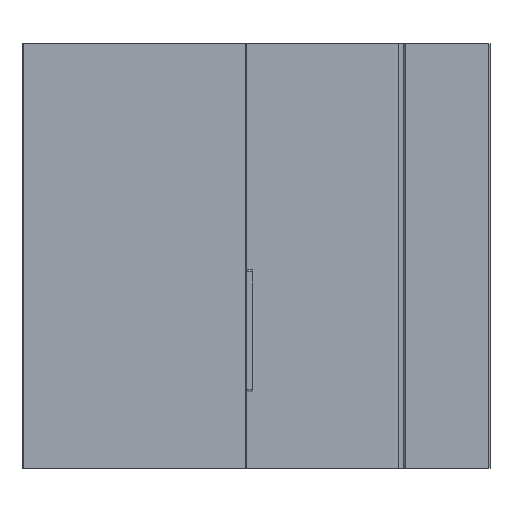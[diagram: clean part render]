
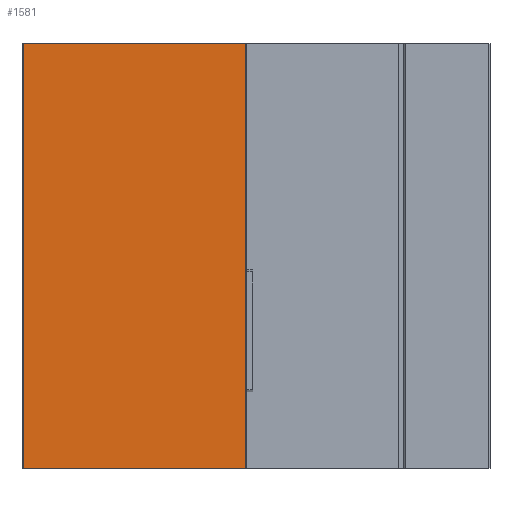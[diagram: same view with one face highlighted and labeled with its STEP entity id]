
A CAD part, front view. The second image highlights one B-rep face of the part: STEP entity #1581.
In plain terms, the highlighted planar face has unit normal (0, -1, 0).
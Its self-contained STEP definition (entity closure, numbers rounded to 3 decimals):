
#593 = VERTEX_POINT( '', #1743 );
#669 = EDGE_CURVE( '', #593, #831, #1827, .T. );
#831 = VERTEX_POINT( '', #2009 );
#887 = EDGE_CURVE( '', #831, #897, #2067, .T. );
#897 = VERTEX_POINT( '', #2078 );
#1211 = VERTEX_POINT( '', #2431 );
#1331 = EDGE_CURVE( '', #1211, #897, #2566, .T. );
#1581 = ADVANCED_FACE( '', ( #2845 ), #2846, .T. );
#1651 = EDGE_CURVE( '', #593, #1211, #2925, .T. );
#1743 = CARTESIAN_POINT( '', ( -24.2, -3., 0. ) );
#1827 = LINE( '', #3133, #3134 );
#2009 = CARTESIAN_POINT( '', ( -6.4, -3., 0. ) );
#2067 = LINE( '', #3449, #3450 );
#2078 = CARTESIAN_POINT( '', ( -6.4, -3., -34. ) );
#2431 = CARTESIAN_POINT( '', ( -24.2, -3., -34. ) );
#2566 = LINE( '', #4136, #4137 );
#2845 = FACE_OUTER_BOUND( '', #4532, .T. );
#2846 = PLANE( '', #4533 );
#2925 = LINE( '', #4644, #4645 );
#3133 = CARTESIAN_POINT( '', ( -24.2, -3., 0. ) );
#3134 = VECTOR( '', #4830, 1. );
#3449 = CARTESIAN_POINT( '', ( -6.4, -3., 0. ) );
#3450 = VECTOR( '', #5087, 1. );
#4136 = CARTESIAN_POINT( '', ( -24.2, -3., -34. ) );
#4137 = VECTOR( '', #5683, 1. );
#4532 = EDGE_LOOP( '', ( #5990, #5991, #5992, #5993 ) );
#4533 = AXIS2_PLACEMENT_3D( '', #5994, #5995, #5996 );
#4644 = CARTESIAN_POINT( '', ( -24.2, -3., 0. ) );
#4645 = VECTOR( '', #6089, 1. );
#4830 = DIRECTION( '', ( 1., 0., 0. ) );
#5087 = DIRECTION( '', ( 0., 0., -1. ) );
#5683 = DIRECTION( '', ( 1., 0., 0. ) );
#5990 = ORIENTED_EDGE( '', *, *, #1331, .T. );
#5991 = ORIENTED_EDGE( '', *, *, #887, .F. );
#5992 = ORIENTED_EDGE( '', *, *, #669, .F. );
#5993 = ORIENTED_EDGE( '', *, *, #1651, .T. );
#5994 = CARTESIAN_POINT( '', ( -24.2, -3., 0. ) );
#5995 = DIRECTION( '', ( 0., -1., 0. ) );
#5996 = DIRECTION( '', ( -1., 0., 0. ) );
#6089 = DIRECTION( '', ( 0., 0., -1. ) );
